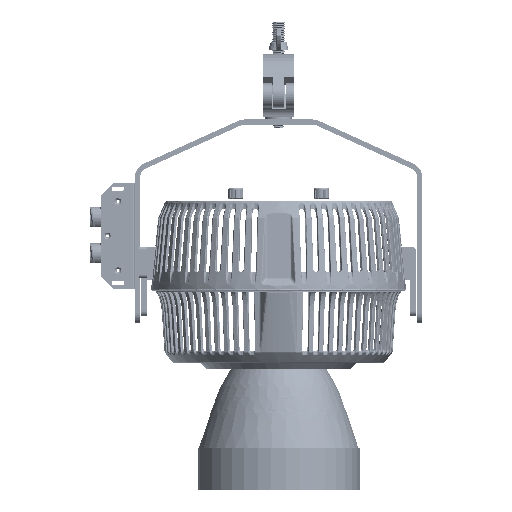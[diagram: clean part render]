
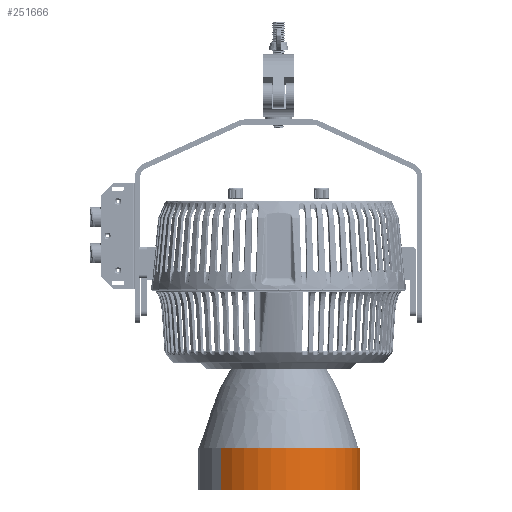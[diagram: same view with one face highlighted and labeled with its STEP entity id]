
A CAD part, front view. The second image highlights one B-rep face of the part: STEP entity #251666.
In plain terms, the highlighted cylindrical face has radius 77.7 mm (diameter 155.4 mm), a partial arc.
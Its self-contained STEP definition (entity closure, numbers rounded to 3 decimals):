
#7826 = ORIENTED_EDGE ( 'NONE', *, *, #275169, .F. ) ;
#8456 = CARTESIAN_POINT ( 'NONE',  ( 0., 83.3, 0. ) ) ;
#15105 = ORIENTED_EDGE ( 'NONE', *, *, #298751, .F. ) ;
#30000 = ORIENTED_EDGE ( 'NONE', *, *, #298082, .T. ) ;
#31200 = CARTESIAN_POINT ( 'NONE',  ( 0., 84.2, 0. ) ) ;
#39040 = EDGE_CURVE ( 'NONE', #158634, #77037, #345076, .T. ) ;
#48176 = CARTESIAN_POINT ( 'NONE',  ( 0., 83.3, 77.7 ) ) ;
#66614 = VECTOR ( 'NONE', #134302, 1000. ) ;
#72769 = VECTOR ( 'NONE', #298893, 1000. ) ;
#77037 = VERTEX_POINT ( 'NONE', #48176 ) ;
#115970 = AXIS2_PLACEMENT_3D ( 'NONE', #205964, #266109, #320559 ) ;
#134302 = DIRECTION ( 'NONE',  ( 0., -1., 0. ) ) ;
#134574 = AXIS2_PLACEMENT_3D ( 'NONE', #31200, #230363, #341253 ) ;
#136170 = CARTESIAN_POINT ( 'NONE',  ( 0., 84.2, 77.7 ) ) ;
#153302 = AXIS2_PLACEMENT_3D ( 'NONE', #8456, #213163, #292203 ) ;
#158634 = VERTEX_POINT ( 'NONE', #303040 ) ;
#163391 = LINE ( 'NONE', #270714, #72769 ) ;
#166210 = LINE ( 'NONE', #136170, #66614 ) ;
#168284 = CARTESIAN_POINT ( 'NONE',  ( 0., 123., 77.7 ) ) ;
#175842 = CIRCLE ( 'NONE', #115970, 77.7 ) ;
#176451 = VERTEX_POINT ( 'NONE', #168284 ) ;
#205964 = CARTESIAN_POINT ( 'NONE',  ( 0., 123., 0. ) ) ;
#213163 = DIRECTION ( 'NONE',  ( 0., 1., 0. ) ) ;
#230363 = DIRECTION ( 'NONE',  ( 0., -1., 0. ) ) ;
#251666 = ADVANCED_FACE ( 'NONE', ( #288613 ), #318617, .T. ) ;
#266109 = DIRECTION ( 'NONE',  ( 0., 1., 0. ) ) ;
#270714 = CARTESIAN_POINT ( 'NONE',  ( 0., 84.2, -77.7 ) ) ;
#275169 = EDGE_CURVE ( 'NONE', #348397, #176451, #175842, .T. ) ;
#288613 = FACE_OUTER_BOUND ( 'NONE', #314115, .T. ) ;
#292203 = DIRECTION ( 'NONE',  ( 0., 0., 1. ) ) ;
#298082 = EDGE_CURVE ( 'NONE', #348397, #158634, #163391, .T. ) ;
#298751 = EDGE_CURVE ( 'NONE', #176451, #77037, #166210, .T. ) ;
#298893 = DIRECTION ( 'NONE',  ( 0., -1., 0. ) ) ;
#303040 = CARTESIAN_POINT ( 'NONE',  ( 0., 83.3, -77.7 ) ) ;
#314115 = EDGE_LOOP ( 'NONE', ( #15105, #7826, #30000, #317807 ) ) ;
#317807 = ORIENTED_EDGE ( 'NONE', *, *, #39040, .T. ) ;
#318617 = CYLINDRICAL_SURFACE ( 'NONE', #134574, 77.7 ) ;
#320559 = DIRECTION ( 'NONE',  ( 0., 0., 1. ) ) ;
#338038 = CARTESIAN_POINT ( 'NONE',  ( 0., 123., -77.7 ) ) ;
#341253 = DIRECTION ( 'NONE',  ( 0., 0., -1. ) ) ;
#345076 = CIRCLE ( 'NONE', #153302, 77.7 ) ;
#348397 = VERTEX_POINT ( 'NONE', #338038 ) ;
